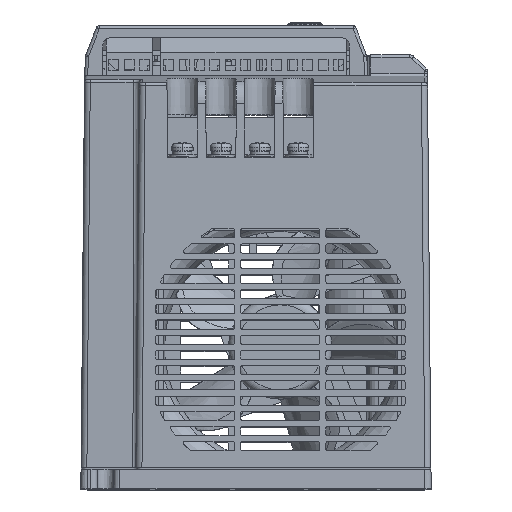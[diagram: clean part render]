
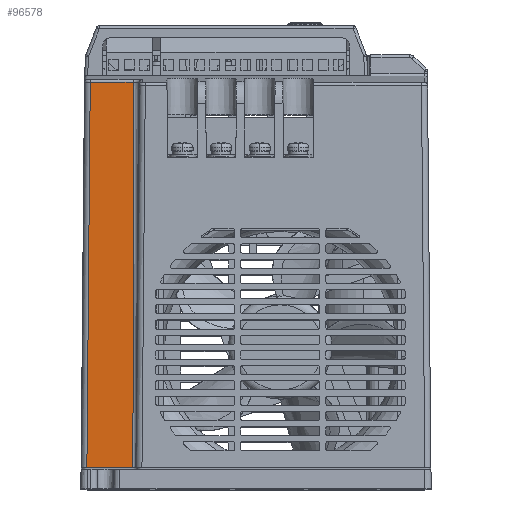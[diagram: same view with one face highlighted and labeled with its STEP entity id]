
A CAD part, top view. The second image highlights one B-rep face of the part: STEP entity #96578.
In plain terms, the highlighted planar face has unit normal (-0.052, 0.009, 0.999).
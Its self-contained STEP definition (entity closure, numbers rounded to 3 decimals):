
#66637=DIRECTION('',(0.999,0.,0.052));
#66638=VECTOR('',#66637,15.175);
#66639=CARTESIAN_POINT('',(-55.601,4.4,93.653));
#66640=LINE('',#66639,#66638);
#67486=DIRECTION('',(0.,1.,-0.009));
#67487=VECTOR('',#67486,126.767);
#67488=CARTESIAN_POINT('',(-40.447,4.4,94.447));
#67489=LINE('',#67488,#67487);
#67516=DIRECTION('',(0.009,1.,-0.008));
#67517=VECTOR('',#67516,126.811);
#67518=CARTESIAN_POINT('',(-55.601,4.4,93.653));
#67519=LINE('',#67518,#67517);
#67520=DIRECTION('',(0.999,-0.003,0.052));
#67521=VECTOR('',#67520,14.125);
#67522=CARTESIAN_POINT('',(-54.495,131.201,
92.603));
#67523=LINE('',#67522,#67521);
#67524=CARTESIAN_POINT('',(-55.601,4.4,93.653));
#87088=VERTEX_POINT('',#67524);
#87089=CARTESIAN_POINT('',(-40.447,4.4,94.447));
#87090=VERTEX_POINT('',#87089);
#90473=CARTESIAN_POINT('',(-40.39,131.163,
93.342));
#90474=VERTEX_POINT('',#90473);
#90475=CARTESIAN_POINT('',(-54.495,131.201,
92.603));
#90476=VERTEX_POINT('',#90475);
#96565=CARTESIAN_POINT('',(-34.537,4.,94.76));
#96566=DIRECTION('',(0.052,-0.009,-0.999));
#96567=DIRECTION('',(0.999,0.,0.052));
#96568=AXIS2_PLACEMENT_3D('',#96565,#96566,#96567);
#96569=PLANE('',#96568);
#96570=ORIENTED_EDGE('',*,*,#94113,.F.);
#96572=ORIENTED_EDGE('',*,*,#96571,.T.);
#96574=ORIENTED_EDGE('',*,*,#96573,.T.);
#96575=ORIENTED_EDGE('',*,*,#96557,.F.);
#96576=EDGE_LOOP('',(#96570,#96572,#96574,#96575));
#96577=FACE_OUTER_BOUND('',#96576,.F.);
#96578=ADVANCED_FACE('',(#96577),#96569,.F.);
#94113=EDGE_CURVE('',#87088,#87090,#66640,.T.);
#96557=EDGE_CURVE('',#87090,#90474,#67489,.T.);
#96571=EDGE_CURVE('',#87088,#90476,#67519,.T.);
#96573=EDGE_CURVE('',#90476,#90474,#67523,.T.);
